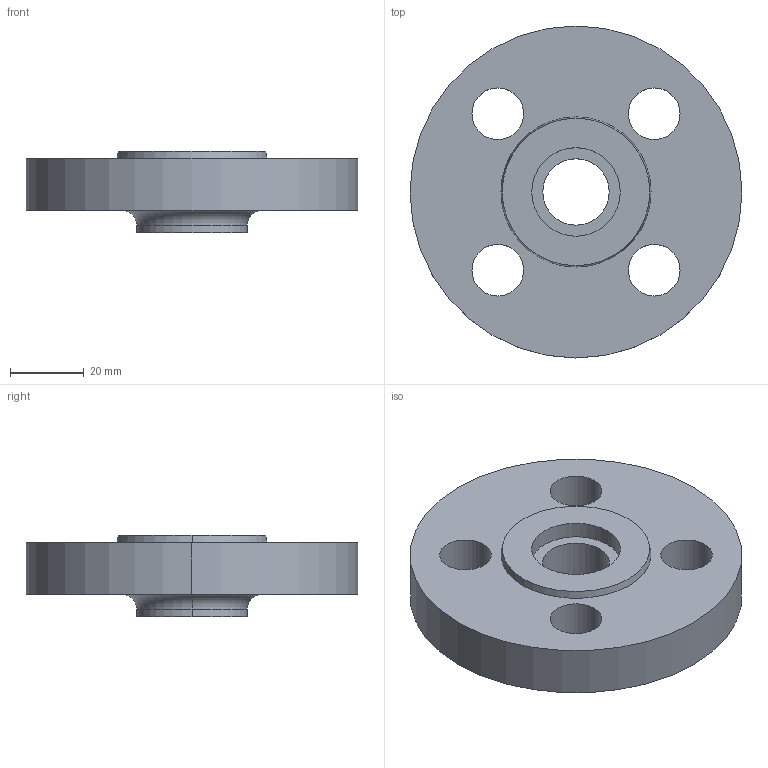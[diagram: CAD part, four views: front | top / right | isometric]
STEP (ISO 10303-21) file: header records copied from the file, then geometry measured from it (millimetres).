
FILE_DESCRIPTION (( 'STEP AP214' ), '1' );
FILE_NAME ('PN40 DN10 Type 12 - Type G Face.STEP', '2018-12-29T04:00:12', ( '' ), ( '' ), 'SwSTEP 2.0', 'SolidWorks 2019', '' );
FILE_SCHEMA (( 'AUTOMOTIVE_DESIGN' ));
Length unit declared in the file: millimetre
Products named in the file (1): PN40 DN10 Type 12 - Type G Face
Bounding box: 90 x 90 x 22 mm (x, y, z)
Volume: 81096.6 mm3; surface area: 19356.9 mm2
Topology: 1 solids, 1 shells, 25 faces, 58 edges, 38 vertices
Faces by surface type: cylinder 16, plane 5, torus 2, cone 2
Entity records: 790 total; most frequent: DIRECTION 150, CARTESIAN_POINT 122, ORIENTED_EDGE 116, AXIS2_PLACEMENT_3D 66, EDGE_CURVE 58, CIRCLE 40, EDGE_LOOP 38, VERTEX_POINT 38
